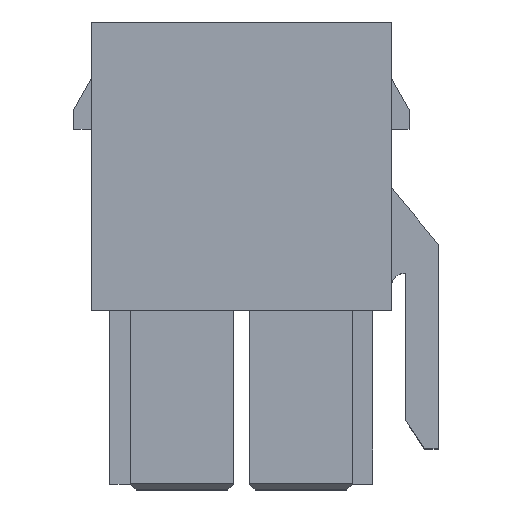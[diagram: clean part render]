
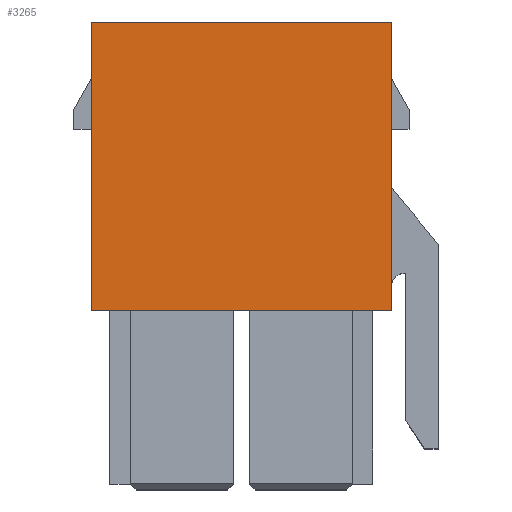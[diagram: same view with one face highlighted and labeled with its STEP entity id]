
A CAD part, top view. The second image highlights one B-rep face of the part: STEP entity #3265.
In plain terms, the highlighted planar face has unit normal (0, 0, 1).
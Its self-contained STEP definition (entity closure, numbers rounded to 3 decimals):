
#64=DIRECTION('',(1.,0.,0.));
#65=VECTOR('',#64,15.4);
#66=CARTESIAN_POINT('',(-7.7,0.,3.6));
#67=LINE('',#66,#65);
#148=DIRECTION('',(0.,-1.,0.));
#149=VECTOR('',#148,14.8);
#150=CARTESIAN_POINT('',(-7.7,0.,3.6));
#151=LINE('',#150,#149);
#168=DIRECTION('',(0.,-1.,0.));
#169=VECTOR('',#168,14.8);
#170=CARTESIAN_POINT('',(7.7,0.,3.6));
#171=LINE('',#170,#169);
#438=DIRECTION('',(1.,0.,0.));
#439=VECTOR('',#438,15.4);
#440=CARTESIAN_POINT('',(-7.7,-14.8,3.6));
#441=LINE('',#440,#439);
#2382=CARTESIAN_POINT('',(-7.7,0.,3.6));
#2384=VERTEX_POINT('',#2382);
#2385=CARTESIAN_POINT('',(7.7,0.,3.6));
#2386=VERTEX_POINT('',#2385);
#2402=CARTESIAN_POINT('',(-7.7,-14.8,3.6));
#2404=VERTEX_POINT('',#2402);
#2405=CARTESIAN_POINT('',(7.7,-14.8,3.6));
#2406=VERTEX_POINT('',#2405);
#3252=CARTESIAN_POINT('',(-7.7,0.,3.6));
#3253=DIRECTION('',(0.,0.,1.));
#3254=DIRECTION('',(1.,0.,0.));
#3255=AXIS2_PLACEMENT_3D('',#3252,#3253,#3254);
#3256=PLANE('',#3255);
#3257=ORIENTED_EDGE('',*,*,#3176,.T.);
#3259=ORIENTED_EDGE('',*,*,#3258,.T.);
#3261=ORIENTED_EDGE('',*,*,#3260,.F.);
#3262=ORIENTED_EDGE('',*,*,#3233,.F.);
#3263=EDGE_LOOP('',(#3257,#3259,#3261,#3262));
#3264=FACE_OUTER_BOUND('',#3263,.F.);
#3265=ADVANCED_FACE('',(#3264),#3256,.T.);
#3176=EDGE_CURVE('',#2384,#2386,#67,.T.);
#3233=EDGE_CURVE('',#2384,#2404,#151,.T.);
#3258=EDGE_CURVE('',#2386,#2406,#171,.T.);
#3260=EDGE_CURVE('',#2404,#2406,#441,.T.);
